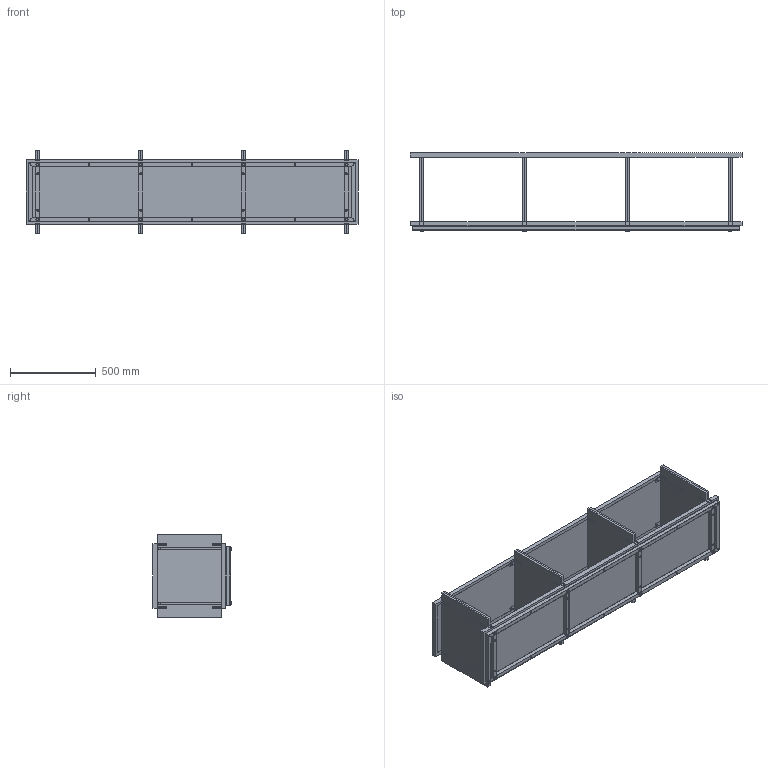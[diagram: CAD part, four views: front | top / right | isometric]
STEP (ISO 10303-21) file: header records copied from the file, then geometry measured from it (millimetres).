
FILE_DESCRIPTION (( 'STEP AP214' ), '1' );
FILE_NAME ('LIBRERIA L.3H.1.STEP', '2024-08-02T08:58:29', ( '' ), ( '' ), 'SwSTEP 2.0', 'SolidWorks 2022', '' );
FILE_SCHEMA (( 'AUTOMOTIVE_DESIGN' ));
Length unit declared in the file: millimetre
Products named in the file (14): TOP MARMO SP.25_TOP MARMO L.1935; VITE TCCE M10X20; SPALLA SP.25; TELAIO H.1-H.2-H.3_H1; PANNELLO SP.12 PER SPALLA; UT20-FE-02 PIEDINO CON BUSSOLA M8 PER REGOLAZIONE A TERRA; LIBRERIA L.3H.1; PIASTRINA H.25; SPINA DIAM.7.9X26; LASTRA PER SPALLA; BASE L.1935; BASE-RIPIANO L.735-L.1935_BASE-RIPIANO L.1935; PIASTRINA H.55; PIASTRINA PER TOP
Assembly tree (60 placements, depth 3):
  LIBRERIA L.3H.1
    TELAIO H.1-H.2-H.3_H1
    BASE L.1935
      BASE-RIPIANO L.735-L.1935_BASE-RIPIANO L.1935
      PIASTRINA H.25  x8
    SPINA DIAM.7.9X26  x8
    SPALLA SP.25  x4
      PANNELLO SP.12 PER SPALLA
      LASTRA PER SPALLA
      PIASTRINA H.55
    PIASTRINA PER TOP  x8
    VITE TCCE M10X20  x8
    TOP MARMO SP.25_TOP MARMO L.1935
    UT20-FE-02 PIEDINO CON BUSSOLA M8 PER REGOLAZIONE A TERRA  x8
Bounding box: 1935 x 455 x 485 mm (x, y, z)
Volume: 55145343.5 mm3; surface area: 11947395.5 mm2
Topology: 124 solids, 124 shells, 3409 faces, 8356 edges, 5264 vertices
Faces by surface type: plane 1781, cylinder 1136, cone 364, sphere 80, torus 48
Entity records: 33752 total; most frequent: DIRECTION 5569, CARTESIAN_POINT 5183, ORIENTED_EDGE 4874, EDGE_CURVE 2437, AXIS2_PLACEMENT_3D 2068, VERTEX_POINT 1558, VECTOR 1433, LINE 1433
